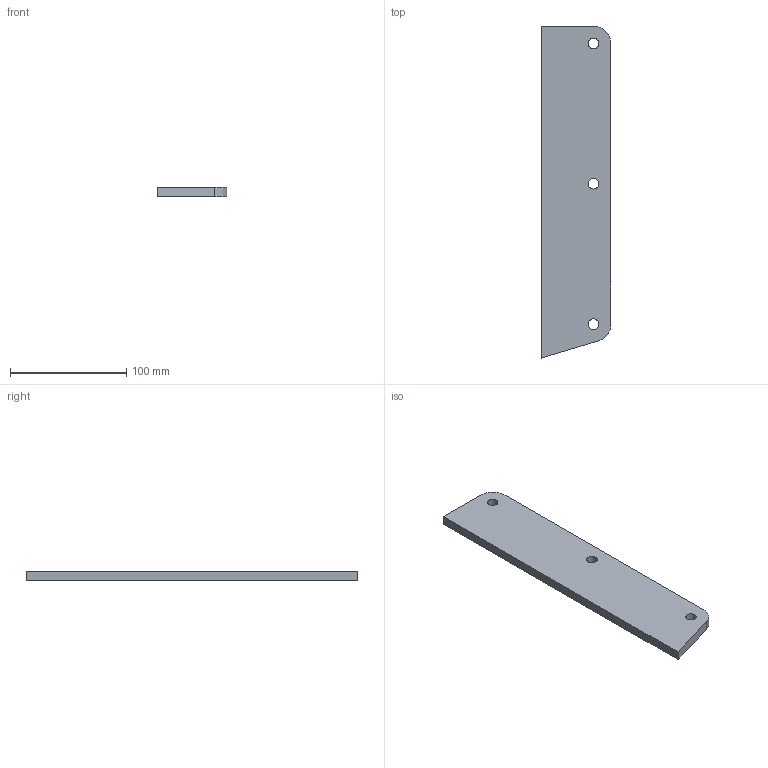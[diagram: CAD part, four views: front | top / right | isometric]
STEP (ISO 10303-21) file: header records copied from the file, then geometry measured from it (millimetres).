
FILE_DESCRIPTION(/* description */ (''),/* implementation_level */ '2;1');
FILE_NAME(/* name */ 'Pos140-Plaatwerk D= 8-S235JRG2-3st',/* time_stamp */ '2024-08-06T13:37:43+02:00',/* author */ (''),/* organization */ (''),/* preprocessor_version */ 'ST-DEVELOPER v16.5',/* originating_system */ 'HiCAD 2024 2901.2 Build 361',/* authorisation */ '');
FILE_SCHEMA (('AUTOMOTIVE_DESIGN { 1 0 10303 214 1 1 1 1 }'));
Length unit declared in the file: millimetre
Products named in the file (1): Pos140-Plaatwerk D= 8-S235JRG2-3st
Bounding box: 60 x 285.02 x 8 mm (x, y, z)
Volume: 130405.3 mm3; surface area: 38601.2 mm2
Topology: 1 solids, 1 shells, 11 faces, 29 edges, 20 vertices
Faces by surface type: plane 6, cylinder 5
Full cylindrical faces by diameter (mm): 9 x3
Entity records: 586 total; most frequent: DIRECTION 56, CARTESIAN_POINT 53, PRESENTATION_STYLE_ASSIGNMENT 49, COLOUR_RGB 49, DRAUGHTING_PRE_DEFINED_CURVE_FONT 48, CURVE_STYLE 48, OVER_RIDING_STYLED_ITEM 48, ORIENTED_EDGE 48
